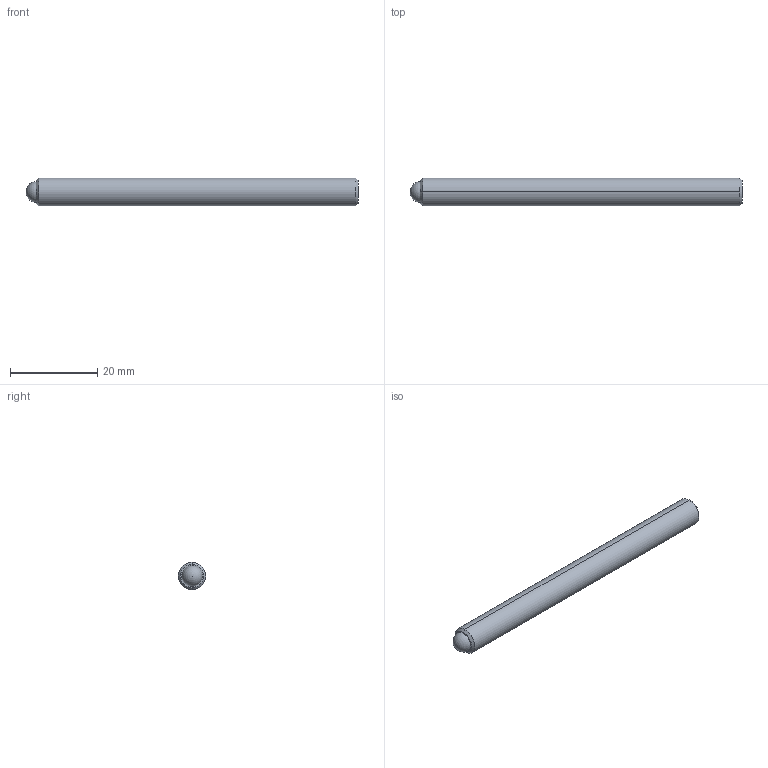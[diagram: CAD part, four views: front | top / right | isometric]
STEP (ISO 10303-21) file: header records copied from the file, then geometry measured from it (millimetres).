
FILE_DESCRIPTION (( 'STEP AP214' ), '1' );
FILE_NAME ('TS250-80-3000-AA.STEP', '2013-02-11T22:15:31', ( 'workpc' ), ( 'Microsoft' ), 'SwSTEP 2.0', 'SolidWorks 2013', '' );
FILE_SCHEMA (( 'AUTOMOTIVE_DESIGN' ));
Length unit declared in the file: inch
Products named in the file (1): TS250-80-3000-AA
Bounding box: 76.2 x 6.35 x 6.35 mm (x, y, z)
Volume: 2346.3 mm3; surface area: 1640.1 mm2
Topology: 2 solids, 2 shells, 20 faces, 45 edges, 29 vertices
Faces by surface type: plane 10, cylinder 4, cone 4, sphere 2
Entity records: 599 total; most frequent: DIRECTION 96, CARTESIAN_POINT 87, ORIENTED_EDGE 80, EDGE_CURVE 40, AXIS2_PLACEMENT_3D 35, VECTOR 26, LINE 26, VERTEX_POINT 26
